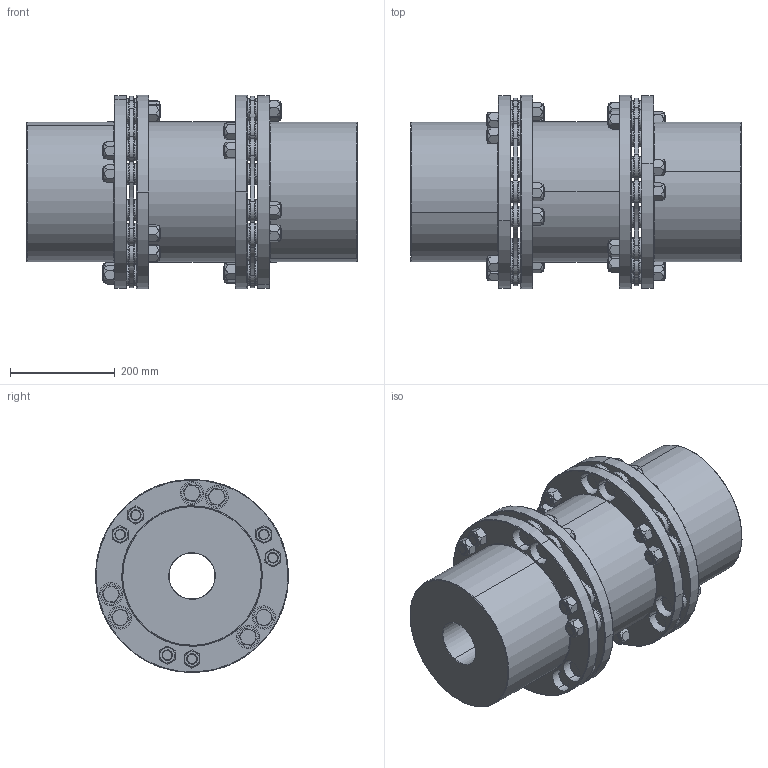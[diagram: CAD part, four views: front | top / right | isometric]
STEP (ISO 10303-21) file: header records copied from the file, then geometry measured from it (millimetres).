
FILE_DESCRIPTION (( 'STEP AP203' ), '1' );
FILE_NAME ('STEP_DMU_190.STEP', '2018-07-25T10:29:59', ( '' ), ( '' ), 'SwSTEP 2.0', 'SolidWorks 2017', '' );
FILE_SCHEMA (( 'CONFIG_CONTROL_DESIGN' ));
Length unit declared in the file: millimetre
Products named in the file (1): STEP_DMU_190
Bounding box: 630 x 368 x 368 mm (x, y, z)
Volume: 28618729.6 mm3; surface area: 1720431.8 mm2
Topology: 1 solids, 1 shells, 1660 faces, 3884 edges, 2360 vertices
Faces by surface type: plane 788, cone 448, cylinder 340, torus 84
Entity records: 52865 total; most frequent: CARTESIAN_POINT 15241, DIRECTION 7886, ORIENTED_EDGE 7656, EDGE_CURVE 3828, AXIS2_PLACEMENT_3D 3069, VERTEX_POINT 2360, EDGE_LOOP 1924, LINE 1748
